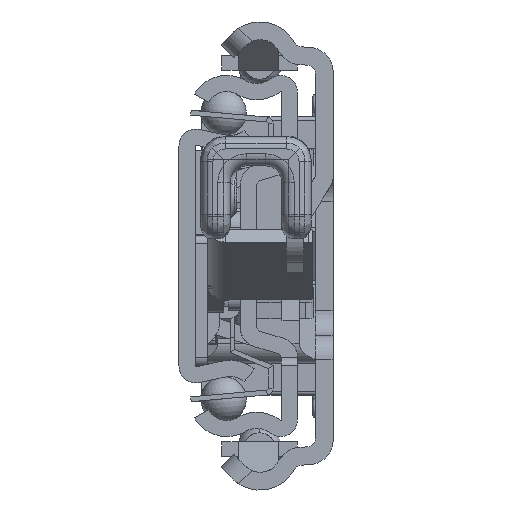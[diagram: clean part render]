
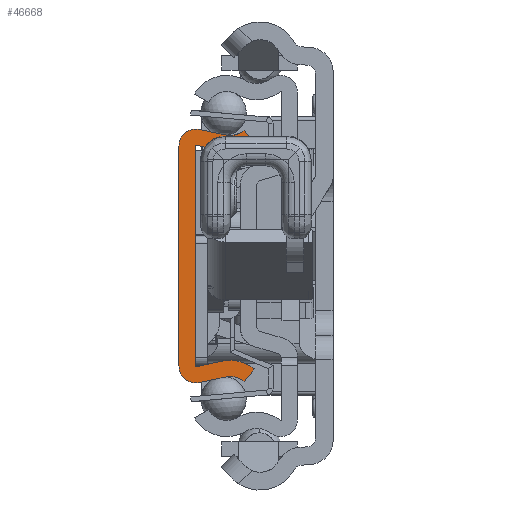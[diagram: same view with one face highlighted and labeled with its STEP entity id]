
A CAD part, left-side view. The second image highlights one B-rep face of the part: STEP entity #46668.
In plain terms, the highlighted planar face has unit normal (-1, 0, 0).
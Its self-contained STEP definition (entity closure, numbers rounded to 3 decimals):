
#42043=CARTESIAN_POINT('',(0.,-6.29,-17.65));
#42044=DIRECTION('',(-1.,0.,0.));
#42045=DIRECTION('',(0.,-0.629,0.778));
#42046=AXIS2_PLACEMENT_3D('',#42043,#42044,#42045);
#42048=DIRECTION('',(0.,0.977,-0.213));
#42049=VECTOR('',#42048,3.218);
#42050=CARTESIAN_POINT('',(0.,-5.692,-14.915));
#42051=LINE('',#42050,#42049);
#42052=CARTESIAN_POINT('',(0.,-2.1,-13.55));
#42053=DIRECTION('',(1.,0.,0.));
#42054=DIRECTION('',(0.,-0.213,-0.977));
#42055=AXIS2_PLACEMENT_3D('',#42052,#42053,#42054);
#42057=DIRECTION('',(0.,0.,1.));
#42058=VECTOR('',#42057,27.1);
#42059=CARTESIAN_POINT('',(0.,0.,-13.55));
#42060=LINE('',#42059,#42058);
#42061=CARTESIAN_POINT('',(0.,-2.1,13.55));
#42062=DIRECTION('',(1.,0.,0.));
#42063=DIRECTION('',(0.,1.,0.));
#42064=AXIS2_PLACEMENT_3D('',#42061,#42062,#42063);
#42066=DIRECTION('',(0.,-0.977,-0.213));
#42067=VECTOR('',#42066,3.218);
#42068=CARTESIAN_POINT('',(0.,-2.548,15.602));
#42069=LINE('',#42068,#42067);
#42070=CARTESIAN_POINT('',(0.,-6.29,17.65));
#42071=DIRECTION('',(-1.,0.,0.));
#42072=DIRECTION('',(0.,0.213,-0.977));
#42073=AXIS2_PLACEMENT_3D('',#42070,#42071,#42072);
#42075=DIRECTION('',(0.,-0.629,-0.778));
#42076=VECTOR('',#42075,2.);
#42077=CARTESIAN_POINT('',(0.,-8.05,15.472));
#42078=LINE('',#42077,#42076);
#42079=CARTESIAN_POINT('',(0.,-6.29,17.65));
#42080=DIRECTION('',(1.,0.,0.));
#42081=DIRECTION('',(0.,-0.629,-0.778));
#42082=AXIS2_PLACEMENT_3D('',#42079,#42080,#42081);
#42084=DIRECTION('',(0.,0.977,0.213));
#42085=VECTOR('',#42084,3.218);
#42086=CARTESIAN_POINT('',(0.,-5.265,12.961));
#42087=LINE('',#42086,#42085);
#42088=CARTESIAN_POINT('',(0.,-2.1,13.55));
#42089=DIRECTION('',(-1.,0.,0.));
#42090=DIRECTION('',(0.,-0.213,0.977));
#42091=AXIS2_PLACEMENT_3D('',#42088,#42089,#42090);
#42093=DIRECTION('',(0.,0.,-1.));
#42094=VECTOR('',#42093,27.1);
#42095=CARTESIAN_POINT('',(0.,-2.,13.55));
#42096=LINE('',#42095,#42094);
#42097=CARTESIAN_POINT('',(0.,-2.1,-13.55));
#42098=DIRECTION('',(-1.,0.,0.));
#42099=DIRECTION('',(0.,1.,0.));
#42100=AXIS2_PLACEMENT_3D('',#42097,#42098,#42099);
#42102=DIRECTION('',(0.,-0.977,0.213));
#42103=VECTOR('',#42102,3.218);
#42104=CARTESIAN_POINT('',(0.,-2.121,-13.648));
#42105=LINE('',#42104,#42103);
#42106=CARTESIAN_POINT('',(0.,-6.29,-17.65));
#42107=DIRECTION('',(1.,0.,0.));
#42108=DIRECTION('',(0.,0.213,0.977));
#42109=AXIS2_PLACEMENT_3D('',#42106,#42107,#42108);
#42111=DIRECTION('',(0.,0.629,-0.778));
#42112=VECTOR('',#42111,2.);
#42113=CARTESIAN_POINT('',(0.,-9.307,-13.917));
#42114=LINE('',#42113,#42112);
#45791=CARTESIAN_POINT('',(0.,-8.05,-15.472));
#45792=CARTESIAN_POINT('',(0.,-5.692,-14.915));
#45793=VERTEX_POINT('',#45791);
#45794=VERTEX_POINT('',#45792);
#45795=CARTESIAN_POINT('',(0.,-2.548,-15.602));
#45796=VERTEX_POINT('',#45795);
#45797=CARTESIAN_POINT('',(0.,0.,-13.55));
#45798=VERTEX_POINT('',#45797);
#45799=CARTESIAN_POINT('',(0.,0.,13.55));
#45800=VERTEX_POINT('',#45799);
#45801=CARTESIAN_POINT('',(0.,-2.548,15.602));
#45802=VERTEX_POINT('',#45801);
#45803=CARTESIAN_POINT('',(0.,-5.692,14.915));
#45804=VERTEX_POINT('',#45803);
#45805=CARTESIAN_POINT('',(0.,-8.05,15.472));
#45806=VERTEX_POINT('',#45805);
#45807=CARTESIAN_POINT('',(0.,-9.307,13.917));
#45808=VERTEX_POINT('',#45807);
#45809=CARTESIAN_POINT('',(0.,-5.265,12.961));
#45810=VERTEX_POINT('',#45809);
#45811=CARTESIAN_POINT('',(0.,-2.121,13.648));
#45812=VERTEX_POINT('',#45811);
#45813=CARTESIAN_POINT('',(0.,-2.,13.55));
#45814=VERTEX_POINT('',#45813);
#45815=CARTESIAN_POINT('',(0.,-2.,-13.55));
#45816=VERTEX_POINT('',#45815);
#45817=CARTESIAN_POINT('',(0.,-2.121,-13.648));
#45818=VERTEX_POINT('',#45817);
#45819=CARTESIAN_POINT('',(0.,-5.265,-12.961));
#45820=VERTEX_POINT('',#45819);
#45821=CARTESIAN_POINT('',(0.,-9.307,-13.917));
#45822=VERTEX_POINT('',#45821);
#46629=CARTESIAN_POINT('',(0.,0.,0.));
#46630=DIRECTION('',(1.,0.,0.));
#46631=DIRECTION('',(0.,-1.,0.));
#46632=AXIS2_PLACEMENT_3D('',#46629,#46630,#46631);
#46633=PLANE('',#46632);
#46635=ORIENTED_EDGE('',*,*,#46634,.T.);
#46637=ORIENTED_EDGE('',*,*,#46636,.T.);
#46639=ORIENTED_EDGE('',*,*,#46638,.T.);
#46641=ORIENTED_EDGE('',*,*,#46640,.T.);
#46643=ORIENTED_EDGE('',*,*,#46642,.T.);
#46645=ORIENTED_EDGE('',*,*,#46644,.T.);
#46647=ORIENTED_EDGE('',*,*,#46646,.T.);
#46649=ORIENTED_EDGE('',*,*,#46648,.T.);
#46651=ORIENTED_EDGE('',*,*,#46650,.T.);
#46653=ORIENTED_EDGE('',*,*,#46652,.T.);
#46655=ORIENTED_EDGE('',*,*,#46654,.T.);
#46657=ORIENTED_EDGE('',*,*,#46656,.T.);
#46659=ORIENTED_EDGE('',*,*,#46658,.T.);
#46661=ORIENTED_EDGE('',*,*,#46660,.T.);
#46663=ORIENTED_EDGE('',*,*,#46662,.T.);
#46665=ORIENTED_EDGE('',*,*,#46664,.T.);
#46666=EDGE_LOOP('',(#46635,#46637,#46639,#46641,#46643,#46645,#46647,#46649,
#46651,#46653,#46655,#46657,#46659,#46661,#46663,#46665));
#46667=FACE_OUTER_BOUND('',#46666,.F.);
#42047=CIRCLE('',#42046,2.8);
#42056=CIRCLE('',#42055,2.1);
#42065=CIRCLE('',#42064,2.1);
#42074=CIRCLE('',#42073,2.8);
#42083=CIRCLE('',#42082,4.8);
#42092=CIRCLE('',#42091,0.1);
#42101=CIRCLE('',#42100,0.1);
#42110=CIRCLE('',#42109,4.8);
#46634=EDGE_CURVE('',#45793,#45794,#42047,.T.);
#46636=EDGE_CURVE('',#45794,#45796,#42051,.T.);
#46638=EDGE_CURVE('',#45796,#45798,#42056,.T.);
#46640=EDGE_CURVE('',#45798,#45800,#42060,.T.);
#46642=EDGE_CURVE('',#45800,#45802,#42065,.T.);
#46644=EDGE_CURVE('',#45802,#45804,#42069,.T.);
#46646=EDGE_CURVE('',#45804,#45806,#42074,.T.);
#46648=EDGE_CURVE('',#45806,#45808,#42078,.T.);
#46650=EDGE_CURVE('',#45808,#45810,#42083,.T.);
#46652=EDGE_CURVE('',#45810,#45812,#42087,.T.);
#46654=EDGE_CURVE('',#45812,#45814,#42092,.T.);
#46656=EDGE_CURVE('',#45814,#45816,#42096,.T.);
#46658=EDGE_CURVE('',#45816,#45818,#42101,.T.);
#46660=EDGE_CURVE('',#45818,#45820,#42105,.T.);
#46662=EDGE_CURVE('',#45820,#45822,#42110,.T.);
#46664=EDGE_CURVE('',#45822,#45793,#42114,.T.);
#46668=ADVANCED_FACE('',(#46667),#46633,.F.);
